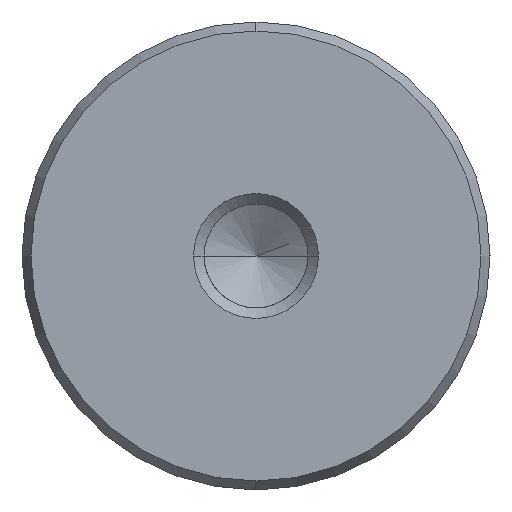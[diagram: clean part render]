
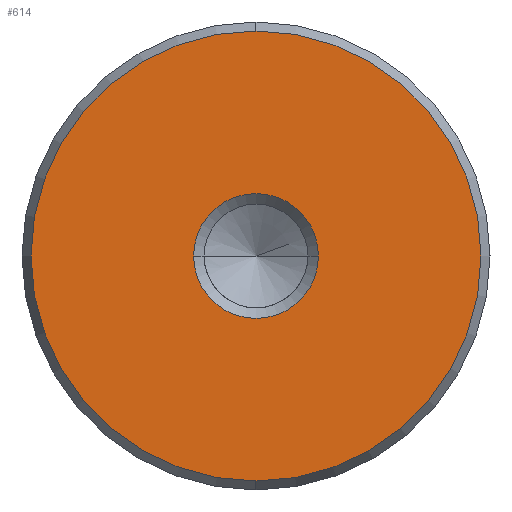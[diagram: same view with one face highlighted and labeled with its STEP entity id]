
A CAD part, left-side view. The second image highlights one B-rep face of the part: STEP entity #614.
In plain terms, the highlighted planar face has unit normal (-1, 0, 0).
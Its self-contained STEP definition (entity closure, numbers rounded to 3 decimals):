
#528=CARTESIAN_POINT('Vertex',(0.,0.,-14.423)) ;
#531=CARTESIAN_POINT('Axis2P3D Location',(0.,0.,0.)) ;
#535=CARTESIAN_POINT('Vertex',(0.,14.423,0.)) ;
#538=CARTESIAN_POINT('Axis2P3D Location',(0.,0.,0.)) ;
#542=CARTESIAN_POINT('Vertex',(0.,0.,14.423)) ;
#564=CARTESIAN_POINT('Axis2P3D Location',(0.,0.,0.)) ;
#568=CARTESIAN_POINT('Vertex',(0.,-14.423,0.)) ;
#571=CARTESIAN_POINT('Axis2P3D Location',(0.,0.,0.)) ;
#585=CARTESIAN_POINT('Axis2P3D Location',(0.,0.,0.)) ;
#596=CARTESIAN_POINT('Axis2P3D Location',(0.,0.,0.)) ;
#600=CARTESIAN_POINT('Vertex',(0.,4.,0.)) ;
#602=CARTESIAN_POINT('Vertex',(0.,-4.,0.)) ;
#605=CARTESIAN_POINT('Axis2P3D Location',(0.,0.,0.)) ;
#532=DIRECTION('Axis2P3D Direction',(1.,0.,-0.)) ;
#539=DIRECTION('Axis2P3D Direction',(1.,0.,-0.)) ;
#565=DIRECTION('Axis2P3D Direction',(1.,0.,-0.)) ;
#572=DIRECTION('Axis2P3D Direction',(1.,0.,-0.)) ;
#586=DIRECTION('Axis2P3D Direction',(1.,0.,-0.)) ;
#587=DIRECTION('Axis2P3D XDirection',(-0.,0.,-1.)) ;
#597=DIRECTION('Axis2P3D Direction',(1.,0.,-0.)) ;
#606=DIRECTION('Axis2P3D Direction',(1.,0.,-0.)) ;
#533=AXIS2_PLACEMENT_3D('Circle Axis2P3D',#531,#532,$) ;
#540=AXIS2_PLACEMENT_3D('Circle Axis2P3D',#538,#539,$) ;
#566=AXIS2_PLACEMENT_3D('Circle Axis2P3D',#564,#565,$) ;
#573=AXIS2_PLACEMENT_3D('Circle Axis2P3D',#571,#572,$) ;
#588=AXIS2_PLACEMENT_3D('Plane Axis2P3D',#585,#586,#587) ;
#598=AXIS2_PLACEMENT_3D('Circle Axis2P3D',#596,#597,$) ;
#607=AXIS2_PLACEMENT_3D('Circle Axis2P3D',#605,#606,$) ;
#591=ORIENTED_EDGE('',*,*,#537,.F.) ;
#592=ORIENTED_EDGE('',*,*,#575,.F.) ;
#593=ORIENTED_EDGE('',*,*,#570,.F.) ;
#594=ORIENTED_EDGE('',*,*,#544,.F.) ;
#611=ORIENTED_EDGE('',*,*,#604,.T.) ;
#612=ORIENTED_EDGE('',*,*,#609,.T.) ;
#613=FACE_BOUND('',#610,.T.) ;
#614=ADVANCED_FACE('720-30x250',(#595,#613),#589,.F.) ;
#534=CIRCLE('generated circle',#533,14.423) ;
#541=CIRCLE('generated circle',#540,14.423) ;
#567=CIRCLE('generated circle',#566,14.423) ;
#574=CIRCLE('generated circle',#573,14.423) ;
#599=CIRCLE('generated circle',#598,4.) ;
#608=CIRCLE('generated circle',#607,4.) ;
#537=EDGE_CURVE('',#529,#536,#534,.T.) ;
#544=EDGE_CURVE('',#536,#543,#541,.T.) ;
#570=EDGE_CURVE('',#543,#569,#567,.T.) ;
#575=EDGE_CURVE('',#569,#529,#574,.T.) ;
#604=EDGE_CURVE('',#601,#603,#599,.T.) ;
#609=EDGE_CURVE('',#603,#601,#608,.T.) ;
#590=EDGE_LOOP('',(#591,#592,#593,#594)) ;
#610=EDGE_LOOP('',(#611,#612)) ;
#595=FACE_OUTER_BOUND('',#590,.T.) ;
#589=PLANE('Plane',#588) ;
#529=VERTEX_POINT('',#528) ;
#536=VERTEX_POINT('',#535) ;
#543=VERTEX_POINT('',#542) ;
#569=VERTEX_POINT('',#568) ;
#601=VERTEX_POINT('',#600) ;
#603=VERTEX_POINT('',#602) ;
